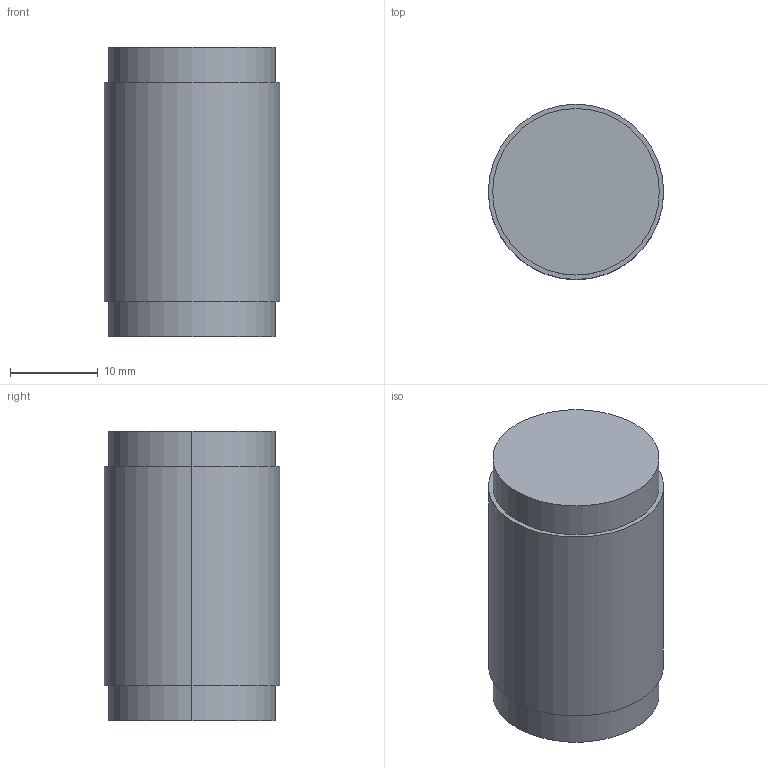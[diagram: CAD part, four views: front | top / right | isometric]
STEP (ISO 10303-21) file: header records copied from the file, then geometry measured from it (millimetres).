
FILE_DESCRIPTION (( 'STEP AP203' ), '1' );
FILE_NAME ('Furniture Knob .STEP', '2016-10-12T15:05:46', ( '' ), ( '' ), 'SwSTEP 2.0', 'SolidWorks 2014', '' );
FILE_SCHEMA (( 'CONFIG_CONTROL_DESIGN' ));
Length unit declared in the file: millimetre
Products named in the file (1): Furniture Knob 
Bounding box: 20 x 20 x 33 mm (x, y, z)
Volume: 10122.2 mm3; surface area: 2676.6 mm2
Topology: 1 solids, 1 shells, 10 faces, 18 edges, 12 vertices
Faces by surface type: cylinder 6, plane 4
Entity records: 331 total; most frequent: DIRECTION 52, CARTESIAN_POINT 41, ORIENTED_EDGE 36, AXIS2_PLACEMENT_3D 23, EDGE_CURVE 18, VERTEX_POINT 12, CIRCLE 12, EDGE_LOOP 12
